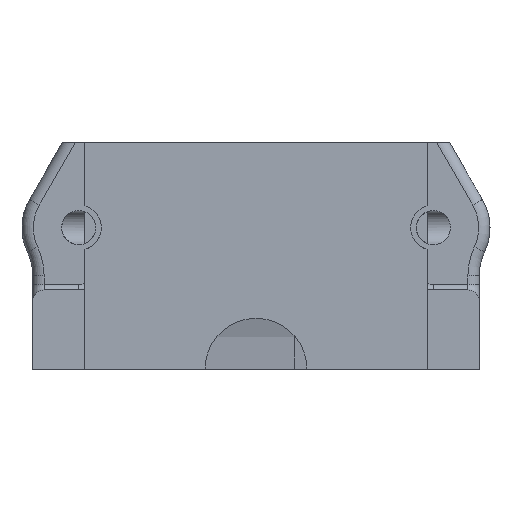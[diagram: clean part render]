
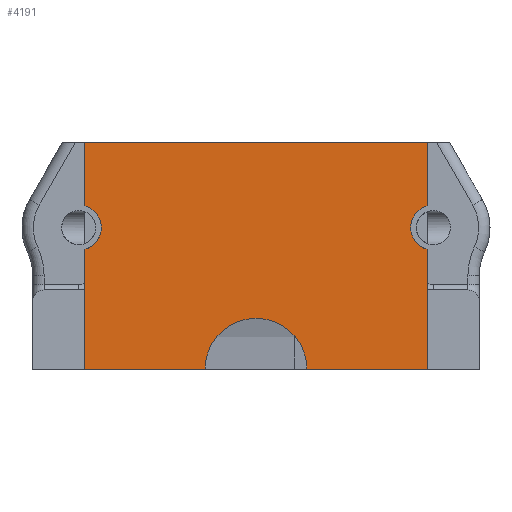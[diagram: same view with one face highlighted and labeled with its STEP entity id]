
A CAD part, front view. The second image highlights one B-rep face of the part: STEP entity #4191.
In plain terms, the highlighted planar face has unit normal (0, -1, 0).
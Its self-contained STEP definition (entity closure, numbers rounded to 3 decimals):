
#30 = CARTESIAN_POINT ( 'NONE',  ( 15.099, -39.1, 0. ) ) ;
#56 = DIRECTION ( 'NONE',  ( 0., 0., 1. ) ) ;
#136 = CARTESIAN_POINT ( 'NONE',  ( -15.65, -39.1, 12.5 ) ) ;
#139 = EDGE_CURVE ( 'NONE', #6415, #2058, #4367, .T. ) ;
#241 = DIRECTION ( 'NONE',  ( 0., 0., 1. ) ) ;
#273 = ORIENTED_EDGE ( 'NONE', *, *, #971, .T. ) ;
#341 = CARTESIAN_POINT ( 'NONE',  ( 0., -39.1, 0. ) ) ;
#402 = ORIENTED_EDGE ( 'NONE', *, *, #924, .F. ) ;
#537 = DIRECTION ( 'NONE',  ( 1., 0., 0. ) ) ;
#667 = CARTESIAN_POINT ( 'NONE',  ( 15.099, -39.1, 0. ) ) ;
#735 = EDGE_CURVE ( 'NONE', #5861, #6578, #5048, .T. ) ;
#924 = EDGE_CURVE ( 'NONE', #5678, #3088, #6645, .T. ) ;
#971 = EDGE_CURVE ( 'NONE', #5626, #6898, #1678, .T. ) ;
#1093 = DIRECTION ( 'NONE',  ( 0., 0., -1. ) ) ;
#1144 = EDGE_CURVE ( 'NONE', #5861, #5678, #4142, .T. ) ;
#1182 = DIRECTION ( 'NONE',  ( 1., 0., 0. ) ) ;
#1300 = DIRECTION ( 'NONE',  ( 0., 0., -1. ) ) ;
#1450 = EDGE_CURVE ( 'NONE', #3088, #2401, #6534, .T. ) ;
#1580 = AXIS2_PLACEMENT_3D ( 'NONE', #6519, #5810, #2703 ) ;
#1583 = CARTESIAN_POINT ( 'NONE',  ( 15.65, -39.1, 12.5 ) ) ;
#1678 = LINE ( 'NONE', #667, #7342 ) ;
#1885 = VECTOR ( 'NONE', #5179, 1000. ) ;
#1983 = EDGE_CURVE ( 'NONE', #2759, #6415, #7532, .T. ) ;
#2016 = ORIENTED_EDGE ( 'NONE', *, *, #4039, .F. ) ;
#2058 = VERTEX_POINT ( 'NONE', #7741 ) ;
#2401 = VERTEX_POINT ( 'NONE', #4453 ) ;
#2703 = DIRECTION ( 'NONE',  ( 0., 0., 1. ) ) ;
#2749 = AXIS2_PLACEMENT_3D ( 'NONE', #136, #3894, #1300 ) ;
#2759 = VERTEX_POINT ( 'NONE', #6695 ) ;
#2873 = AXIS2_PLACEMENT_3D ( 'NONE', #1583, #5426, #1093 ) ;
#2934 = ORIENTED_EDGE ( 'NONE', *, *, #4370, .T. ) ;
#3088 = VERTEX_POINT ( 'NONE', #5114 ) ;
#3161 = VECTOR ( 'NONE', #537, 1000. ) ;
#3208 = CARTESIAN_POINT ( 'NONE',  ( -15.099, -39.1, 10.577 ) ) ;
#3245 = VECTOR ( 'NONE', #56, 1000. ) ;
#3535 = DIRECTION ( 'NONE',  ( 0., 0., -1. ) ) ;
#3894 = DIRECTION ( 'NONE',  ( 0., -1., 0. ) ) ;
#3978 = EDGE_LOOP ( 'NONE', ( #6870, #2934, #273, #2016, #6204, #402, #4672, #5717, #4769, #8167 ) ) ;
#4039 = EDGE_CURVE ( 'NONE', #2401, #6898, #6587, .T. ) ;
#4142 = LINE ( 'NONE', #5950, #4450 ) ;
#4191 = ADVANCED_FACE ( 'NONE', ( #5968 ), #7813, .F. ) ;
#4367 = LINE ( 'NONE', #30, #1885 ) ;
#4370 = EDGE_CURVE ( 'NONE', #2058, #5626, #7687, .T. ) ;
#4450 = VECTOR ( 'NONE', #241, 1000. ) ;
#4453 = CARTESIAN_POINT ( 'NONE',  ( -15.099, -39.1, 20. ) ) ;
#4672 = ORIENTED_EDGE ( 'NONE', *, *, #1144, .F. ) ;
#4769 = ORIENTED_EDGE ( 'NONE', *, *, #5544, .F. ) ;
#5048 = LINE ( 'NONE', #7500, #3161 ) ;
#5064 = DIRECTION ( 'NONE',  ( 1., 0., 0. ) ) ;
#5077 = CARTESIAN_POINT ( 'NONE',  ( 15.099, -39.1, 20. ) ) ;
#5094 = CARTESIAN_POINT ( 'NONE',  ( -19.699, -39.1, 20. ) ) ;
#5098 = DIRECTION ( 'NONE',  ( 0., 0., 1. ) ) ;
#5114 = CARTESIAN_POINT ( 'NONE',  ( -15.099, -39.1, 14.423 ) ) ;
#5130 = CARTESIAN_POINT ( 'NONE',  ( -15.099, -39.1, 0. ) ) ;
#5179 = DIRECTION ( 'NONE',  ( 0., 0., 1. ) ) ;
#5426 = DIRECTION ( 'NONE',  ( 0., 1., 0. ) ) ;
#5544 = EDGE_CURVE ( 'NONE', #2759, #6578, #8059, .T. ) ;
#5558 = CARTESIAN_POINT ( 'NONE',  ( -4.5, -39.1, 0. ) ) ;
#5626 = VERTEX_POINT ( 'NONE', #7445 ) ;
#5678 = VERTEX_POINT ( 'NONE', #3208 ) ;
#5717 = ORIENTED_EDGE ( 'NONE', *, *, #735, .T. ) ;
#5810 = DIRECTION ( 'NONE',  ( 0., 1., 0. ) ) ;
#5861 = VERTEX_POINT ( 'NONE', #5130 ) ;
#5950 = CARTESIAN_POINT ( 'NONE',  ( -15.099, -39.1, 0. ) ) ;
#5968 = FACE_OUTER_BOUND ( 'NONE', #3978, .T. ) ;
#6204 = ORIENTED_EDGE ( 'NONE', *, *, #1450, .F. ) ;
#6415 = VERTEX_POINT ( 'NONE', #7836 ) ;
#6519 = CARTESIAN_POINT ( 'NONE',  ( -19.699, -39.1, 20. ) ) ;
#6534 = LINE ( 'NONE', #7665, #3245 ) ;
#6578 = VERTEX_POINT ( 'NONE', #5558 ) ;
#6587 = LINE ( 'NONE', #5094, #8092 ) ;
#6630 = VECTOR ( 'NONE', #1182, 1000. ) ;
#6645 = CIRCLE ( 'NONE', #2749, 2. ) ;
#6681 = AXIS2_PLACEMENT_3D ( 'NONE', #341, #6722, #3535 ) ;
#6695 = CARTESIAN_POINT ( 'NONE',  ( 4.5, -39.1, 0. ) ) ;
#6722 = DIRECTION ( 'NONE',  ( 0., -1., 0. ) ) ;
#6870 = ORIENTED_EDGE ( 'NONE', *, *, #139, .T. ) ;
#6898 = VERTEX_POINT ( 'NONE', #5077 ) ;
#6904 = CARTESIAN_POINT ( 'NONE',  ( -19.699, -39.1, 0. ) ) ;
#7342 = VECTOR ( 'NONE', #5098, 1000. ) ;
#7445 = CARTESIAN_POINT ( 'NONE',  ( 15.099, -39.1, 14.423 ) ) ;
#7500 = CARTESIAN_POINT ( 'NONE',  ( -19.699, -39.1, 0. ) ) ;
#7532 = LINE ( 'NONE', #6904, #6630 ) ;
#7665 = CARTESIAN_POINT ( 'NONE',  ( -15.099, -39.1, 0. ) ) ;
#7687 = CIRCLE ( 'NONE', #2873, 2. ) ;
#7741 = CARTESIAN_POINT ( 'NONE',  ( 15.099, -39.1, 10.577 ) ) ;
#7813 = PLANE ( 'NONE',  #1580 ) ;
#7836 = CARTESIAN_POINT ( 'NONE',  ( 15.099, -39.1, 0. ) ) ;
#8059 = CIRCLE ( 'NONE', #6681, 4.5 ) ;
#8092 = VECTOR ( 'NONE', #5064, 1000. ) ;
#8167 = ORIENTED_EDGE ( 'NONE', *, *, #1983, .T. ) ;
